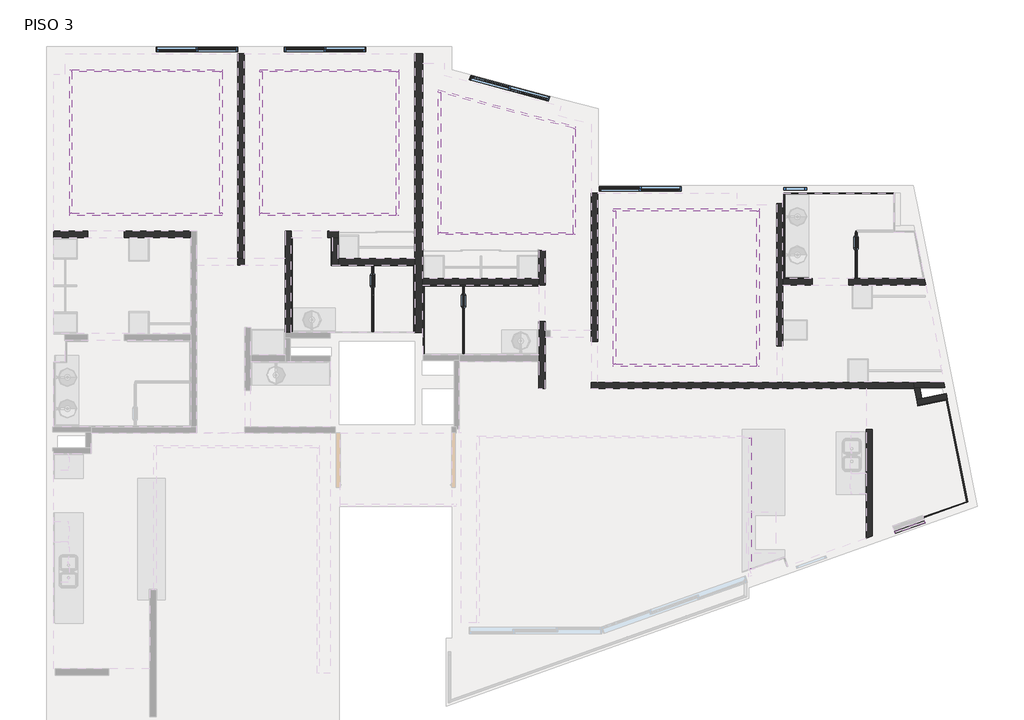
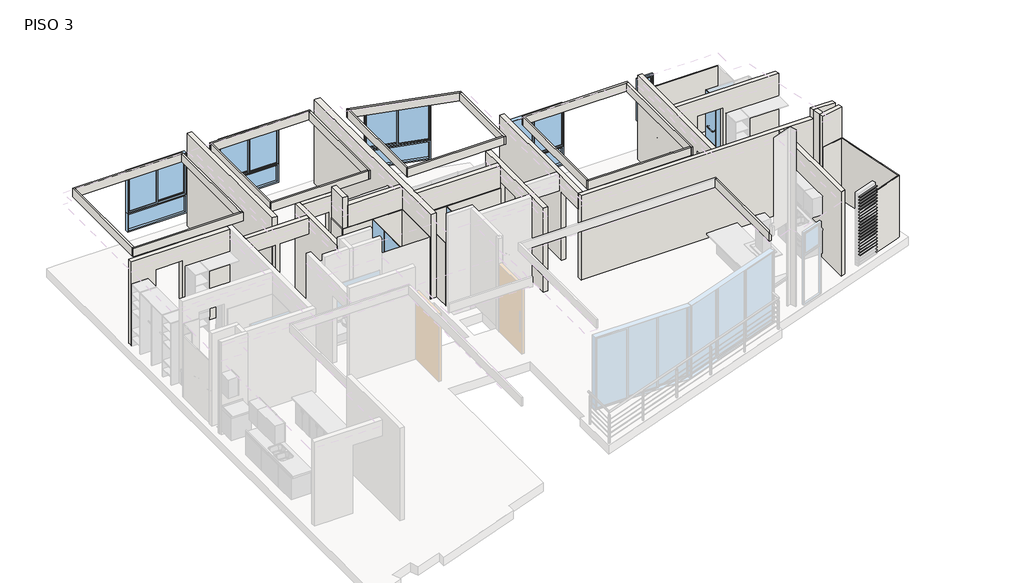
# One storey, part 2 of 3: 50 walls, 20 members, 8 windows.
"""IFC4 building model written with IfcOpenShell, lengths in millimetres."""

from ifc_helpers import new_model, si_unit, frame, origin, place, context, project, spatial, polyline, outline, extrude, faceted_brep, transform, mapped, element, save
from components import montante_rectangular_montante_rectangular_1_5x5_1b1c74e0, window_b75bd1a9, window_36b55308, window_504e83ce, window_db60b2a9, window_b7257eee, window_9818a119

model = new_model("IFC4")

# Units and contexts
model_context = context("Model", 3, world=origin())
ifc_project = project(units=[si_unit("LENGTHUNIT", "METRE", prefix="MILLI")], contexts=[model_context])

# Site, building, storey
site = spatial("IfcSite", under=ifc_project)
building = spatial("IfcBuilding", under=site)
storey = spatial("IfcBuildingStorey", under=building, Name="PISO 3", Elevation=9000.0)

# Members
placement = place(None, origin())
montante_rectangular_montante_rectangular_1_5x5_shape = montante_rectangular_montante_rectangular_1_5x5_1b1c74e0(model_context)
element("IfcMember", 1, ObjectType="Montante rectangular : Montante rectangular - 1.5x5", at=placement, inside=storey, context=model_context, shape_type="MappedRepresentation", body=[
    mapped(montante_rectangular_montante_rectangular_1_5x5_shape, transform((53319.7231991, 27770.5085935, 9386.6666667), x_axis=(0.0, 0.0, 1.0), y_axis=(0.3356769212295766, -0.9419771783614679, 0.0), z_axis=(0.9419771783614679, 0.3356769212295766, 0.0))),
])
element("IfcMember", 2, ObjectType="Montante rectangular : Montante rectangular - 1.5x5", at=placement, inside=storey, context=model_context, shape_type="MappedRepresentation", body=[
    mapped(montante_rectangular_montante_rectangular_1_5x5_shape, transform((53319.7231991, 27770.5085935, 9485.2083333), x_axis=(0.0, 0.0, 1.0), y_axis=(0.3356769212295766, -0.9419771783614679, 0.0), z_axis=(0.9419771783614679, 0.3356769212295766, 0.0))),
])
element("IfcMember", 3, ObjectType="Montante rectangular : Montante rectangular - 1.5x5", at=placement, inside=storey, context=model_context, shape_type="MappedRepresentation", body=[
    mapped(montante_rectangular_montante_rectangular_1_5x5_shape, transform((53319.7231991, 27770.5085935, 9583.75), x_axis=(0.0, 0.0, 1.0), y_axis=(0.3356769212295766, -0.9419771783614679, 0.0), z_axis=(0.9419771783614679, 0.3356769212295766, 0.0))),
])
element("IfcMember", 4, ObjectType="Montante rectangular : Montante rectangular - 1.5x5", at=placement, inside=storey, context=model_context, shape_type="MappedRepresentation", body=[
    mapped(montante_rectangular_montante_rectangular_1_5x5_shape, transform((53319.7231991, 27770.5085935, 9682.2916667), x_axis=(0.0, 0.0, 1.0), y_axis=(0.3356769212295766, -0.9419771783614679, 0.0), z_axis=(0.9419771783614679, 0.3356769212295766, 0.0))),
])
element("IfcMember", 5, ObjectType="Montante rectangular : Montante rectangular - 1.5x5", at=placement, inside=storey, context=model_context, shape_type="MappedRepresentation", body=[
    mapped(montante_rectangular_montante_rectangular_1_5x5_shape, transform((53319.7231991, 27770.5085935, 9780.8333333), x_axis=(0.0, 0.0, 1.0), y_axis=(0.3356769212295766, -0.9419771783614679, 0.0), z_axis=(0.9419771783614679, 0.3356769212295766, 0.0))),
])
element("IfcMember", 6, ObjectType="Montante rectangular : Montante rectangular - 1.5x5", at=placement, inside=storey, context=model_context, shape_type="MappedRepresentation", body=[
    mapped(montante_rectangular_montante_rectangular_1_5x5_shape, transform((53319.7231991, 27770.5085935, 9879.375), x_axis=(0.0, 0.0, 1.0), y_axis=(0.3356769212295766, -0.9419771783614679, 0.0), z_axis=(0.9419771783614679, 0.3356769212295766, 0.0))),
])
element("IfcMember", 7, ObjectType="Montante rectangular : Montante rectangular - 1.5x5", at=placement, inside=storey, context=model_context, shape_type="MappedRepresentation", body=[
    mapped(montante_rectangular_montante_rectangular_1_5x5_shape, transform((53319.7231991, 27770.5085935, 9977.9166667), x_axis=(0.0, 0.0, 1.0), y_axis=(0.3356769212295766, -0.9419771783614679, 0.0), z_axis=(0.9419771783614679, 0.3356769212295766, 0.0))),
])
element("IfcMember", 8, ObjectType="Montante rectangular : Montante rectangular - 1.5x5", at=placement, inside=storey, context=model_context, shape_type="MappedRepresentation", body=[
    mapped(montante_rectangular_montante_rectangular_1_5x5_shape, transform((53319.7231991, 27770.5085935, 10076.4583333), x_axis=(0.0, 0.0, 1.0), y_axis=(0.3356769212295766, -0.9419771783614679, 0.0), z_axis=(0.9419771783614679, 0.3356769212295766, 0.0))),
])
element("IfcMember", 9, ObjectType="Montante rectangular : Montante rectangular - 1.5x5", at=placement, inside=storey, context=model_context, shape_type="MappedRepresentation", body=[
    mapped(montante_rectangular_montante_rectangular_1_5x5_shape, transform((53319.7231991, 27770.5085935, 10175.0), x_axis=(0.0, 0.0, 1.0), y_axis=(0.3356769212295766, -0.9419771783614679, 0.0), z_axis=(0.9419771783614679, 0.3356769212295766, 0.0))),
])
element("IfcMember", 10, ObjectType="Montante rectangular : Montante rectangular - 1.5x5", at=placement, inside=storey, context=model_context, shape_type="MappedRepresentation", body=[
    mapped(montante_rectangular_montante_rectangular_1_5x5_shape, transform((53319.7231991, 27770.5085935, 10273.5416667), x_axis=(0.0, 0.0, 1.0), y_axis=(0.3356769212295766, -0.9419771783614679, 0.0), z_axis=(0.9419771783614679, 0.3356769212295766, 0.0))),
])
element("IfcMember", 11, ObjectType="Montante rectangular : Montante rectangular - 1.5x5", at=placement, inside=storey, context=model_context, shape_type="MappedRepresentation", body=[
    mapped(montante_rectangular_montante_rectangular_1_5x5_shape, transform((53319.7231991, 27770.5085935, 10372.0833333), x_axis=(0.0, 0.0, 1.0), y_axis=(0.3356769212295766, -0.9419771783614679, 0.0), z_axis=(0.9419771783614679, 0.3356769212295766, 0.0))),
])
element("IfcMember", 12, ObjectType="Montante rectangular : Montante rectangular - 1.5x5", at=placement, inside=storey, context=model_context, shape_type="MappedRepresentation", body=[
    mapped(montante_rectangular_montante_rectangular_1_5x5_shape, transform((53319.7231991, 27770.5085935, 10470.625), x_axis=(0.0, 0.0, 1.0), y_axis=(0.3356769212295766, -0.9419771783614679, 0.0), z_axis=(0.9419771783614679, 0.3356769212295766, 0.0))),
])
element("IfcMember", 13, ObjectType="Montante rectangular : Montante rectangular - 1.5x5", at=placement, inside=storey, context=model_context, shape_type="MappedRepresentation", body=[
    mapped(montante_rectangular_montante_rectangular_1_5x5_shape, transform((53319.7231991, 27770.5085935, 10569.1666667), x_axis=(0.0, 0.0, 1.0), y_axis=(0.3356769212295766, -0.9419771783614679, 0.0), z_axis=(0.9419771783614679, 0.3356769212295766, 0.0))),
])
element("IfcMember", 14, ObjectType="Montante rectangular : Montante rectangular - 1.5x5", at=placement, inside=storey, context=model_context, shape_type="MappedRepresentation", body=[
    mapped(montante_rectangular_montante_rectangular_1_5x5_shape, transform((53319.7231991, 27770.5085935, 10667.7083333), x_axis=(0.0, 0.0, 1.0), y_axis=(0.3356769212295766, -0.9419771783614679, 0.0), z_axis=(0.9419771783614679, 0.3356769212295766, 0.0))),
])
element("IfcMember", 15, ObjectType="Montante rectangular : Montante rectangular - 1.5x5", at=placement, inside=storey, context=model_context, shape_type="MappedRepresentation", body=[
    mapped(montante_rectangular_montante_rectangular_1_5x5_shape, transform((53319.7231991, 27770.5085935, 10766.25), x_axis=(0.0, 0.0, 1.0), y_axis=(0.3356769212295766, -0.9419771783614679, 0.0), z_axis=(0.9419771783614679, 0.3356769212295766, 0.0))),
])
element("IfcMember", 16, ObjectType="Montante rectangular : Montante rectangular - 1.5x5", at=placement, inside=storey, context=model_context, shape_type="MappedRepresentation", body=[
    mapped(montante_rectangular_montante_rectangular_1_5x5_shape, transform((53319.7231991, 27770.5085935, 10864.7916667), x_axis=(0.0, 0.0, 1.0), y_axis=(0.3356769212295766, -0.9419771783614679, 0.0), z_axis=(0.9419771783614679, 0.3356769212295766, 0.0))),
])
element("IfcMember", 17, ObjectType="Montante rectangular : Montante rectangular - 1.5x5", at=placement, inside=storey, context=model_context, shape_type="MappedRepresentation", body=[
    mapped(montante_rectangular_montante_rectangular_1_5x5_shape, transform((53319.7231991, 27770.5085935, 10963.3333333), x_axis=(0.0, 0.0, 1.0), y_axis=(0.3356769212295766, -0.9419771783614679, 0.0), z_axis=(0.9419771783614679, 0.3356769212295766, 0.0))),
])
element("IfcMember", 18, ObjectType="Montante rectangular : Montante rectangular - 1.5x5", at=placement, inside=storey, context=model_context, shape_type="MappedRepresentation", body=[
    mapped(montante_rectangular_montante_rectangular_1_5x5_shape, transform((53319.7231991, 27770.5085935, 11061.875), x_axis=(0.0, 0.0, 1.0), y_axis=(0.3356769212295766, -0.9419771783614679, 0.0), z_axis=(0.9419771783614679, 0.3356769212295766, 0.0))),
])
element("IfcMember", 19, ObjectType="Montante rectangular : Montante rectangular - 1.5x5", at=placement, inside=storey, context=model_context, shape_type="MappedRepresentation", body=[
    mapped(montante_rectangular_montante_rectangular_1_5x5_shape, transform((53319.7231991, 27770.5085935, 11160.4166667), x_axis=(0.0, 0.0, 1.0), y_axis=(0.3356769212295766, -0.9419771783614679, 0.0), z_axis=(0.9419771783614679, 0.3356769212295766, 0.0))),
])
element("IfcMember", 20, ObjectType="Montante rectangular : Montante rectangular - 1.5x5", at=placement, inside=storey, context=model_context, shape_type="MappedRepresentation", body=[
    mapped(montante_rectangular_montante_rectangular_1_5x5_shape, transform((53319.7231991, 27770.5085935, 11258.9583333), x_axis=(0.0, 0.0, 1.0), y_axis=(0.3356769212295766, -0.9419771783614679, 0.0), z_axis=(0.9419771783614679, 0.3356769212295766, 0.0))),
])

# Walls
element("IfcWall", 21, ObjectType="Muro block 12cms_int_ductos", at=placement, inside=storey, context=model_context, shape_type="Brep", body=[
    faceted_brep([(53085.5419689, 30724.0100923, 9000.0), (53207.9252394, 30724.0100923, 9000.0), (53760.5143431, 30724.0100923, 9000.0), (53760.5143431, 30724.0100923, 12000.0), (53207.9252394, 30724.0100923, 12000.0), (53085.5419689, 30724.0100923, 12000.0), (53061.5073088, 30844.0100923, 9000.0), (53061.5073088, 30844.0100923, 12000.0), (53736.479683, 30844.0100923, 12000.0), (53736.479683, 30844.0100923, 9000.0)], [[[0, 1, 2, 3, 4, 5]], [[6, 7, 8, 9]], [[2, 1, 0, 6, 9]], [[5, 4, 3, 8, 7]], [[0, 5, 7, 6]], [[3, 2, 9, 8]]]),
])
element("IfcWall", 22, ObjectType="Muro block 12cms_int_ductos", at=placement, inside=storey, context=model_context, shape_type="Brep", body=[
    faceted_brep([(53161.6752689, 30343.8925477, 12000.0), (53810.6150242, 30473.8679349, 12000.0), (53787.0484109, 30591.5310758, 12000.0), (53255.7717965, 30485.122302, 12000.0), (53138.1086555, 30461.5556886, 12000.0), (53161.6752689, 30343.8925477, 9000.0), (53810.6150242, 30473.8679349, 9000.0), (53138.1086555, 30461.5556886, 9000.0), (53787.0484109, 30591.5310758, 9000.0), (53255.7717965, 30485.122302, 9000.0)], [[[0, 1, 2, 3, 4]], [[5, 6, 1, 0]], [[7, 4, 3, 2, 8, 9]], [[6, 5, 7, 9, 8]], [[5, 0, 4, 7]], [[1, 6, 8, 2]]]),
])
element("IfcWall", 23, ObjectType="Muro block 12cms_int_ductos", at=placement, inside=storey, context=model_context, shape_type="Brep", body=[
    faceted_brep([(53255.7717965, 30485.122302, 12000.0), (53207.9252394, 30724.0100923, 12000.0), (53085.5419689, 30724.0100923, 12000.0), (53089.5477456, 30704.0100923, 12000.0), (53138.1086555, 30461.5556886, 12000.0), (53255.7717965, 30485.122302, 9000.0), (53207.9252394, 30724.0100923, 9000.0), (53138.1086555, 30461.5556886, 9000.0), (53085.5419689, 30724.0100923, 9000.0), (53089.5477456, 30704.0100923, 9000.0)], [[[0, 1, 2, 3, 4]], [[5, 6, 1, 0]], [[7, 4, 3, 2, 8, 9]], [[6, 5, 7, 9, 8]], [[5, 0, 4, 7]], [[1, 6, 8, 2]]]),
])
element("IfcWall", 24, ObjectType="Plafond tablaroca", at=placement, inside=storey, context=model_context, shape_type="Brep", body=[
    faceted_brep([(34491.1589874, 34568.9785701, 11720.0), (34543.8589874, 34568.9785701, 11720.0), (37794.5300226, 34568.9785701, 11720.0), (37847.2300226, 34568.9785701, 11720.0), (37847.2300226, 34568.9785701, 11452.7), (37794.5300226, 34568.9785701, 11452.7), (34543.8589874, 34568.9785701, 11452.7), (34491.1589874, 34568.9785701, 11452.7), (37847.2300226, 34516.2785701, 11720.0), (34491.1589874, 34516.2785701, 11720.0), (34491.1589874, 34516.2785701, 11452.7), (37847.2300226, 34516.2785701, 11452.7)], [[[0, 1, 2, 3, 4, 5, 6, 7]], [[8, 9, 10, 11]], [[9, 0, 7, 10]], [[7, 6, 5, 4, 11, 10]], [[3, 2, 1, 0, 9, 8]], [[3, 8, 11, 4]]]),
])
element("IfcWall", 25, ObjectType="Plafond tablaroca", at=placement, inside=storey, context=model_context, shape_type="Brep", body=[
    faceted_brep([(34543.8589874, 37733.1026232, 11720.0), (34543.8589874, 37680.4026232, 11720.0), (34543.8589874, 34568.9785701, 11720.0), (34543.8589874, 34568.9785701, 11452.7), (34543.8589874, 37680.4026232, 11452.7), (34543.8589874, 37733.1026232, 11452.7), (34491.1589874, 34568.9785701, 11720.0), (34491.1589874, 37733.1026232, 11720.0), (34491.1589874, 37733.1026232, 11452.7), (34491.1589874, 34568.9785701, 11452.7)], [[[0, 1, 2, 3, 4, 5]], [[6, 7, 8, 9]], [[2, 1, 0, 7, 6]], [[2, 6, 9, 3]], [[5, 4, 3, 9, 8]], [[7, 0, 5, 8]]]),
])
element("IfcWall", 26, ObjectType="Plafond tablaroca", at=placement, inside=storey, context=model_context, shape_type="Brep", body=[
    faceted_brep([(37847.2300226, 37680.4026232, 11720.0), (37794.5300226, 37680.4026232, 11720.0), (34543.8589874, 37680.4026232, 11720.0), (34543.8589874, 37680.4026232, 11452.7), (37794.5300226, 37680.4026232, 11452.7), (37847.2300226, 37680.4026232, 11452.7), (34543.8589874, 37733.1026232, 11720.0), (37847.2300226, 37733.1026232, 11720.0), (37847.2300226, 37733.1026232, 11452.7), (34543.8589874, 37733.1026232, 11452.7)], [[[0, 1, 2, 3, 4, 5]], [[6, 7, 8, 9]], [[2, 1, 0, 7, 6]], [[2, 6, 9, 3]], [[7, 0, 5, 8]], [[5, 4, 3, 9, 8]]]),
])
element("IfcWall", 27, ObjectType="Plafond tablaroca", at=placement, inside=storey, context=model_context, shape_type="SweptSolid", body=[
    extrude(outline(polyline([(37794.5300226, 34568.9785701), (37794.5300226, 37680.4026232), (37847.2300226, 37680.4026232), (37847.2300226, 34568.9785701), (37794.5300226, 34568.9785701)])), frame((0.0, 0.0, 11452.7), z_axis=(0.0, 0.0, 1.0), x_axis=(1.0, 0.0, 0.0)), (0.0, 0.0, 1.0), 267.3),
])
element("IfcWall", 28, ObjectType="Plafond tablaroca", at=placement, inside=storey, context=model_context, shape_type="Brep", body=[
    faceted_brep([(41737.2059119, 37680.4026232, 11720.0), (41684.5059119, 37680.4026232, 11720.0), (38734.5300226, 37680.4026232, 11720.0), (38681.8300226, 37680.4026232, 11720.0), (38681.8300226, 37680.4026232, 11452.7), (38734.5300226, 37680.4026232, 11452.7), (41684.5059119, 37680.4026232, 11452.7), (41737.2059119, 37680.4026232, 11452.7), (38681.8300226, 37733.1026232, 11720.0), (41737.2059119, 37733.1026232, 11720.0), (41737.2059119, 37733.1026232, 11452.7), (38681.8300226, 37733.1026232, 11452.7)], [[[0, 1, 2, 3, 4, 5, 6, 7]], [[8, 9, 10, 11]], [[3, 2, 1, 0, 9, 8]], [[9, 0, 7, 10]], [[3, 8, 11, 4]], [[7, 6, 5, 4, 11, 10]]]),
])
element("IfcWall", 29, ObjectType="Plafond tablaroca", at=placement, inside=storey, context=model_context, shape_type="Brep", body=[
    faceted_brep([(41684.5059119, 34516.2785701, 11720.0), (41684.5059119, 34568.9785701, 11720.0), (41684.5059119, 37680.4026232, 11720.0), (41684.5059119, 37680.4026232, 11452.7), (41684.5059119, 34568.9785701, 11452.7), (41684.5059119, 34516.2785701, 11452.7), (41737.2059119, 37680.4026232, 11720.0), (41737.2059119, 34516.2785701, 11720.0), (41737.2059119, 34516.2785701, 11452.7), (41737.2059119, 37680.4026232, 11452.7)], [[[0, 1, 2, 3, 4, 5]], [[6, 7, 8, 9]], [[2, 1, 0, 7, 6]], [[2, 6, 9, 3]], [[7, 0, 5, 8]], [[5, 4, 3, 9, 8]]]),
])
element("IfcWall", 30, ObjectType="Plafond tablaroca", at=placement, inside=storey, context=model_context, shape_type="Brep", body=[
    faceted_brep([(38681.8300226, 34568.9785701, 11720.0), (38734.5300226, 34568.9785701, 11720.0), (41684.5059119, 34568.9785701, 11720.0), (41684.5059119, 34568.9785701, 11452.7), (38734.5300226, 34568.9785701, 11452.7), (38681.8300226, 34568.9785701, 11452.7), (41684.5059119, 34516.2785701, 11720.0), (38681.8300226, 34516.2785701, 11720.0), (38681.8300226, 34516.2785701, 11452.7), (41684.5059119, 34516.2785701, 11452.7)], [[[0, 1, 2, 3, 4, 5]], [[6, 7, 8, 9]], [[2, 1, 0, 7, 6]], [[2, 6, 9, 3]], [[7, 0, 5, 8]], [[5, 4, 3, 9, 8]]]),
])
element("IfcWall", 31, ObjectType="Plafond tablaroca", at=placement, inside=storey, context=model_context, shape_type="SweptSolid", body=[
    extrude(outline(polyline([(38734.5300226, 37680.4026232), (38734.5300226, 34568.9785701), (38681.8300226, 34568.9785701), (38681.8300226, 37680.4026232), (38734.5300226, 37680.4026232)])), frame((0.0, 0.0, 11452.7), z_axis=(0.0, 0.0, 1.0), x_axis=(1.0, 0.0, 0.0)), (0.0, 0.0, 1.0), 267.3),
])
element("IfcWall", 32, ObjectType="Plafond tablaroca", at=placement, inside=storey, context=model_context, shape_type="Brep", body=[
    faceted_brep([(45627.2059119, 36422.7090546, 11720.0), (45574.5059119, 36436.8800645, 11720.0), (42664.5059119, 37219.3779563, 11720.0), (42611.8059119, 37233.5489662, 11720.0), (42611.8059119, 37233.5489662, 11452.7), (42664.5059119, 37219.3779563, 11452.7), (45574.5059119, 36436.8800645, 11452.7), (45627.2059119, 36422.7090546, 11452.7), (42611.8059119, 37288.121006, 11720.0), (45627.2059119, 36477.2810943, 11720.0), (45627.2059119, 36477.2810943, 11452.7), (42611.8059119, 37288.121006, 11452.7)], [[[0, 1, 2, 3, 4, 5, 6, 7]], [[8, 9, 10, 11]], [[3, 2, 1, 0, 9, 8]], [[9, 0, 7, 10]], [[3, 8, 11, 4]], [[7, 6, 5, 4, 11, 10]]]),
])
element("IfcWall", 33, ObjectType="Plafond tablaroca", at=placement, inside=storey, context=model_context, shape_type="Brep", body=[
    faceted_brep([(45574.5059119, 34091.3113905, 11720.0), (45574.5059119, 34144.0113905, 11720.0), (45574.5059119, 36436.8800645, 11720.0), (45574.5059119, 36436.8800645, 11452.7), (45574.5059119, 34144.0113905, 11452.7), (45574.5059119, 34091.3113905, 11452.7), (45627.2059119, 36422.7090546, 11720.0), (45627.2059119, 34091.3113905, 11720.0), (45627.2059119, 34091.3113905, 11452.7), (45627.2059119, 36422.7090546, 11452.7)], [[[0, 1, 2, 3, 4, 5]], [[6, 7, 8, 9]], [[2, 1, 0, 7, 6]], [[2, 6, 9, 3]], [[7, 0, 5, 8]], [[5, 4, 3, 9, 8]]]),
])
element("IfcWall", 34, ObjectType="Plafond tablaroca", at=placement, inside=storey, context=model_context, shape_type="Brep", body=[
    faceted_brep([(42611.8059119, 34144.0113905, 11720.0), (42664.5059119, 34144.0113905, 11720.0), (45574.5059119, 34144.0113905, 11720.0), (45574.5059119, 34144.0113905, 11452.7), (42664.5059119, 34144.0113905, 11452.7), (42611.8059119, 34144.0113905, 11452.7), (45574.5059119, 34091.3113905, 11720.0), (42611.8059119, 34091.3113905, 11720.0), (42611.8059119, 34091.3113905, 11452.7), (45574.5059119, 34091.3113905, 11452.7)], [[[0, 1, 2, 3, 4, 5]], [[6, 7, 8, 9]], [[2, 1, 0, 7, 6]], [[2, 6, 9, 3]], [[7, 0, 5, 8]], [[5, 4, 3, 9, 8]]]),
])
element("IfcWall", 35, ObjectType="Plafond tablaroca", at=placement, inside=storey, context=model_context, shape_type="SweptSolid", body=[
    extrude(outline(polyline([(42664.5059119, 37219.3779563), (42664.5059119, 34144.0113905), (42611.8059119, 34144.0113905), (42611.8059119, 37233.5489662), (42664.5059119, 37219.3779563)])), frame((0.0, 0.0, 11452.7), z_axis=(0.0, 0.0, 1.0), x_axis=(1.0, 0.0, 0.0)), (0.0, 0.0, 1.0), 267.3),
])
element("IfcWall", 36, ObjectType="Plafond tablaroca", at=placement, inside=storey, context=model_context, shape_type="Brep", body=[
    faceted_brep([(49674.4822189, 34614.0104642, 11720.0), (49621.7822189, 34614.0104642, 11720.0), (46514.5059119, 34614.0104642, 11720.0), (46461.8059119, 34614.0104642, 11720.0), (46461.8059119, 34614.0104642, 11452.7), (46514.5059119, 34614.0104642, 11452.7), (49621.7822189, 34614.0104642, 11452.7), (49674.4822189, 34614.0104642, 11452.7), (46461.8059119, 34666.7104642, 11720.0), (49674.4822189, 34666.7104642, 11720.0), (49674.4822189, 34666.7104642, 11452.7), (46461.8059119, 34666.7104642, 11452.7)], [[[0, 1, 2, 3, 4, 5, 6, 7]], [[8, 9, 10, 11]], [[3, 2, 1, 0, 9, 8]], [[9, 0, 7, 10]], [[3, 8, 11, 4]], [[7, 6, 5, 4, 11, 10]]]),
])
element("IfcWall", 37, ObjectType="Plafond tablaroca", at=placement, inside=storey, context=model_context, shape_type="Brep", body=[
    faceted_brep([(49621.7822189, 31191.3100923, 11720.0), (49621.7822189, 31244.0100923, 11720.0), (49621.7822189, 34614.0104642, 11720.0), (49621.7822189, 34614.0104642, 11452.7), (49621.7822189, 31244.0100923, 11452.7), (49621.7822189, 31191.3100923, 11452.7), (49674.4822189, 34614.0104642, 11720.0), (49674.4822189, 31191.3100923, 11720.0), (49674.4822189, 31191.3100923, 11452.7), (49674.4822189, 34614.0104642, 11452.7)], [[[0, 1, 2, 3, 4, 5]], [[6, 7, 8, 9]], [[2, 1, 0, 7, 6]], [[2, 6, 9, 3]], [[7, 0, 5, 8]], [[5, 4, 3, 9, 8]]]),
])
element("IfcWall", 38, ObjectType="Plafond tablaroca", at=placement, inside=storey, context=model_context, shape_type="Brep", body=[
    faceted_brep([(46461.8059119, 31244.0100923, 11720.0), (46514.5059119, 31244.0100923, 11720.0), (49621.7822189, 31244.0100923, 11720.0), (49621.7822189, 31244.0100923, 11452.7), (46514.5059119, 31244.0100923, 11452.7), (46461.8059119, 31244.0100923, 11452.7), (49621.7822189, 31191.3100923, 11720.0), (46461.8059119, 31191.3100923, 11720.0), (46461.8059119, 31191.3100923, 11452.7), (49621.7822189, 31191.3100923, 11452.7)], [[[0, 1, 2, 3, 4, 5]], [[6, 7, 8, 9]], [[2, 1, 0, 7, 6]], [[2, 6, 9, 3]], [[7, 0, 5, 8]], [[5, 4, 3, 9, 8]]]),
])
element("IfcWall", 39, ObjectType="Plafond tablaroca", at=placement, inside=storey, context=model_context, shape_type="SweptSolid", body=[
    extrude(outline(polyline([(46514.5059119, 34614.0104642), (46514.5059119, 31244.0100923), (46461.8059119, 31244.0100923), (46461.8059119, 34614.0104642), (46514.5059119, 34614.0104642)])), frame((0.0, 0.0, 11452.7), z_axis=(0.0, 0.0, 1.0), x_axis=(1.0, 0.0, 0.0)), (0.0, 0.0, 1.0), 267.3),
])
element("IfcWall", 40, ObjectType="Plafond tablaroca", at=placement, inside=storey, context=model_context, shape_type="SweptSolid", body=[
    extrude(outline(polyline([(49444.5059119, 26734.010184), (49444.5059119, 29611.2733508), (49497.2059119, 29611.2733508), (49497.2059119, 26734.010184), (49444.5059119, 26734.010184)])), frame((0.0, 0.0, 11452.7), z_axis=(0.0, 0.0, 1.0), x_axis=(1.0, 0.0, 0.0)), (0.0, 0.0, 1.0), 267.3),
])
element("IfcWall", 41, ObjectType="Cerámica baño", at=placement, inside=storey, context=model_context, shape_type="Brep", body=[
    faceted_brep([(40249.5059119, 33408.9784839, 9000.0), (42064.5059119, 33408.9784839, 9000.0), (42084.5059119, 33408.9784839, 9000.0), (42084.5059119, 33408.9784839, 11000.0), (42064.5059119, 33408.9784839, 11000.0), (40249.5059119, 33408.9784839, 11000.0), (40249.5059119, 33428.9784839, 9000.0), (40249.5059119, 33428.9784839, 11000.0), (40269.5059119, 33428.9784839, 11000.0), (42084.5059119, 33428.9784839, 11000.0), (42084.5059119, 33428.9784839, 9000.0), (40269.5059119, 33428.9784839, 9000.0)], [[[0, 1, 2, 3, 4, 5]], [[6, 7, 8, 9, 10, 11]], [[2, 1, 0, 6, 11, 10]], [[5, 4, 3, 9, 8, 7]], [[3, 2, 10, 9]], [[0, 5, 7, 6]]]),
])
element("IfcWall", 42, ObjectType="Cerámica baño", at=placement, inside=storey, context=model_context, shape_type="Brep", body=[
    faceted_brep([(42064.5059119, 33408.9784839, 9000.0), (42064.5059119, 31953.9733508, 9000.0), (42064.5059119, 31933.9733508, 9000.0), (42064.5059119, 31933.9733508, 11000.0), (42064.5059119, 31953.9733508, 11000.0), (42064.5059119, 33408.9784839, 11000.0), (42084.5059119, 33408.9784839, 9000.0), (42084.5059119, 33408.9784839, 11000.0), (42084.5059119, 31933.9733508, 11000.0), (42084.5059119, 31933.9733508, 9000.0)], [[[0, 1, 2, 3, 4, 5]], [[6, 7, 8, 9]], [[2, 1, 0, 6, 9]], [[5, 4, 3, 8, 7]], [[3, 2, 9, 8]], [[0, 5, 7, 6]]]),
])
element("IfcWall", 43, ObjectType="Cerámica baño", at=placement, inside=storey, context=model_context, shape_type="Brep", body=[
    faceted_brep([(50769.4822189, 33144.0113812, 9000.0), (50234.4822189, 33144.0113812, 9000.0), (50214.4822189, 33144.0113812, 9000.0), (50214.4822189, 33144.0113812, 11000.0), (50234.4822189, 33144.0113812, 11000.0), (50769.4822189, 33144.0113812, 11000.0), (50769.4822189, 33124.0113812, 9000.0), (50769.4822189, 33124.0113812, 11000.0), (50214.4822189, 33124.0113812, 11000.0), (50214.4822189, 33124.0113812, 9000.0)], [[[0, 1, 2, 3, 4, 5]], [[6, 7, 8, 9]], [[2, 1, 0, 6, 9]], [[5, 4, 3, 8, 7]], [[0, 5, 7, 6]], [[3, 2, 9, 8]]]),
])
element("IfcWall", 44, ObjectType="Cerámica baño", at=placement, inside=storey, context=model_context, shape_type="Brep", body=[
    faceted_brep([(50234.4822189, 33144.0113812, 9000.0), (50234.4822189, 34994.0104642, 9000.0), (50234.4822189, 35014.0104642, 9000.0), (50234.4822189, 35014.0104642, 11000.0), (50234.4822189, 34994.0104642, 11000.0), (50234.4822189, 33144.0113812, 11000.0), (50214.4822189, 33144.0113812, 9000.0), (50214.4822189, 33144.0113812, 11000.0), (50214.4822189, 35014.0104642, 11000.0), (50214.4822189, 35014.0104642, 9000.0)], [[[0, 1, 2, 3, 4, 5]], [[6, 7, 8, 9]], [[2, 1, 0, 6, 9]], [[5, 4, 3, 8, 7]], [[0, 5, 7, 6]], [[3, 2, 9, 8]]]),
])
element("IfcWall", 45, ObjectType="Cerámica baño", at=placement, inside=storey, context=model_context, shape_type="Brep", body=[
    faceted_brep([(42299.5059119, 31464.0104754, 9000.0), (42299.5059119, 32963.9839575, 9000.0), (42299.5059119, 32983.9839575, 9000.0), (42299.5059119, 32983.9839575, 11000.0), (42299.5059119, 32963.9839575, 11000.0), (42299.5059119, 31464.0104754, 11000.0), (42279.5059119, 31464.0104754, 9000.0), (42279.5059119, 31464.0104754, 11000.0), (42279.5059119, 32983.9839575, 11000.0), (42279.5059119, 32983.9839575, 9000.0)], [[[0, 1, 2, 3, 4, 5]], [[6, 7, 8, 9]], [[2, 1, 0, 6, 9]], [[5, 4, 3, 8, 7]], [[3, 2, 9, 8]], [[0, 5, 7, 6]]]),
])
element("IfcWall", 46, ObjectType="Cerámica baño", at=placement, inside=storey, context=model_context, shape_type="SweptSolid", body=[
    extrude(outline(polyline([(44824.5251366, 32963.9839575), (42299.5059119, 32963.9839575), (42299.5059119, 32983.9839575), (44824.5251366, 32983.9839575), (44824.5251366, 32963.9839575)])), frame((0.0, 0.0, 9000.0), z_axis=(0.0, 0.0, 1.0), x_axis=(1.0, 0.0, 0.0)), (0.0, 0.0, 1.0), 2000.0),
])
element("IfcWall", 47, ObjectType="Cerámica baño", at=placement, inside=storey, context=model_context, shape_type="SweptSolid", body=[
    extrude(outline(polyline([(39394.5300226, 34028.9785701), (39394.5300226, 31953.9733508), (39374.5300226, 31953.9733508), (39374.5300226, 34028.9785701), (39394.5300226, 34028.9785701)])), frame((0.0, 0.0, 9000.0), z_axis=(0.0, 0.0, 1.0), x_axis=(1.0, 0.0, 0.0)), (0.0, 0.0, 1.0), 2000.0),
])
element("IfcWall", 48, ObjectType="Cerámica baño", at=placement, inside=storey, context=model_context, shape_type="SweptSolid", body=[
    extrude(outline(polyline([(40269.5059119, 34028.9785701), (40269.5059119, 33428.9784839), (40249.5059119, 33428.9784839), (40249.5059119, 34028.9785701), (40269.5059119, 34028.9785701)])), frame((0.0, 0.0, 9000.0), z_axis=(0.0, 0.0, 1.0), x_axis=(1.0, 0.0, 0.0)), (0.0, 0.0, 1.0), 2000.0),
])
element("IfcWall", 49, ObjectType="Cerámica baño", at=placement, inside=storey, context=model_context, shape_type="SweptSolid", body=[
    extrude(outline(polyline([(50234.4822189, 35014.0104642), (52636.6303003, 35014.0104642), (52636.6303003, 34994.0104642), (50234.4822189, 34994.0104642), (50234.4822189, 35014.0104642)])), frame((0.0, 0.0, 9000.0), z_axis=(0.0, 0.0, 1.0), x_axis=(1.0, 0.0, 0.0)), (0.0, 0.0, 1.0), 2000.0),
])
element("IfcWall", 50, ObjectType="Cerámica baño", at=placement, inside=storey, context=model_context, shape_type="Brep", body=[
    faceted_brep([(53165.6030378, 30324.2820242, 9000.0), (53794.9322696, 30450.3296425, 9000.0), (53814.5427931, 30454.2574114, 9000.0), (53814.5427931, 30454.2574114, 11000.0), (53794.9322696, 30450.3296425, 11000.0), (53165.6030378, 30324.2820242, 11000.0), (53161.6752689, 30343.8925477, 9000.0), (53161.6752689, 30343.8925477, 11000.0), (53810.6150242, 30473.8679349, 11000.0), (53810.6150242, 30473.8679349, 9000.0)], [[[0, 1, 2, 3, 4, 5]], [[6, 7, 8, 9]], [[2, 1, 0, 6, 9]], [[5, 4, 3, 8, 7]], [[0, 5, 7, 6]], [[3, 2, 9, 8]]]),
])
element("IfcWall", 51, ObjectType="Cerámica baño", at=placement, inside=storey, context=model_context, shape_type="SweptSolid", body=[
    extrude(outline(polyline([(54246.3942771, 28196.2748474), (53794.9322696, 30450.3296425), (53814.5427931, 30454.2574114), (54265.4326509, 28203.0592396), (54246.3942771, 28196.2748474)])), frame((0.0, 0.0, 9000.0), z_axis=(0.0, 0.0, 1.0), x_axis=(1.0, 0.0, 0.0)), (0.0, 0.0, 1.0), 2000.0),
])
element("IfcWall", 52, ObjectType="Cerámica baño", at=placement, inside=storey, context=model_context, shape_type="SweptSolid", body=[
    extrude(outline(polyline([(54265.4326509, 28203.0592396), (53289.5122761, 27855.2865395), (53282.7987377, 27874.1260831), (54261.4634288, 28222.8767301), (54265.4326509, 28203.0592396)])), frame((0.0, 0.0, 9000.0), z_axis=(0.0, 0.0, 1.0), x_axis=(1.0, 0.0, 0.0)), (0.0, 0.0, 1.0), 2000.0),
])
element("IfcWall", 53, ObjectType="Muro block 14cms_int", at=placement, inside=storey, context=model_context, shape_type="SweptSolid", body=[
    extrude(outline(polyline([(9000.0, 34143.8589874), (9000.0, 34894.5300226), (11200.0, 34894.5300226), (11200.0, 35694.5300226), (9000.0, 35694.5300226), (9000.0, 37154.5300226), (11720.0, 37154.5300226), (11720.0, 34143.8589874), (9000.0, 34143.8589874)])), frame((0.0, 34028.9785701, 0.0), z_axis=(0.0, 1.0, 0.0), x_axis=(0.0, 0.0, 1.0)), (0.0, 0.0, 1.0), 140.0),
])
element("IfcWall", 54, ObjectType="Muro block 14cms_int", at=placement, inside=storey, context=model_context, shape_type="Brep", body=[
    faceted_brep([(38334.5300226, 33568.9784839, 9000.0), (38334.5300226, 38080.4026232, 9000.0), (38334.5300226, 38080.4026232, 12000.0), (38334.5300226, 33568.9784839, 12000.0), (38334.5300226, 33568.9784839, 11200.0), (38194.5300226, 33568.9784839, 9000.0), (38194.5300226, 33568.9784839, 11200.0), (38194.5300226, 33568.9784839, 12000.0), (38194.5300226, 38080.4026232, 12000.0), (38194.5300226, 38080.4026232, 11350.0), (38194.5300226, 38080.4026232, 9400.0), (38194.5300226, 38080.4026232, 9000.0)], [[[0, 1, 2, 3, 4]], [[5, 6, 7, 8, 9, 10, 11]], [[1, 0, 5, 11]], [[3, 2, 8, 7]], [[0, 4, 3, 7, 6, 5]], [[2, 1, 11, 10, 9, 8]]]),
])
element("IfcWall", 55, ObjectType="Muro block 14cms_int", at=placement, inside=storey, context=model_context, shape_type="SweptSolid", body=[
    extrude(outline(polyline([(11200.0, 38194.5300226), (9000.0, 38194.5300226), (9000.0, 38334.5300226), (11200.0, 38334.5300226), (11200.0, 39234.5300226), (11720.0, 39234.5300226), (11720.0, 37294.5300226), (11200.0, 37294.5300226), (11200.0, 38194.5300226)])), frame((0.0, 33428.9784839, 0.0), z_axis=(0.0, 1.0, 0.0), x_axis=(0.0, 0.0, 1.0)), (0.0, 0.0, 1.0), 140.0),
])
element("IfcWall", 56, ObjectType="Muro block 14cms_int", at=placement, inside=storey, context=model_context, shape_type="Brep", body=[
    faceted_brep([(42264.5059119, 32984.0113856, 9000.0), (44824.5251366, 32984.0113856, 9000.0), (44824.5251366, 32984.0113856, 11200.0), (44824.5251366, 32984.0113856, 11720.0), (42264.5059119, 32984.0113856, 11720.0), (44824.5251366, 33124.0113856, 9000.0), (42264.5059119, 33124.0113856, 9000.0), (42264.5059119, 33124.0113856, 11720.0), (44824.5251366, 33124.0113856, 11720.0)], [[[0, 1, 2, 3, 4]], [[5, 6, 7, 8]], [[1, 0, 6, 5]], [[1, 5, 8, 3, 2]], [[6, 0, 4, 7]], [[4, 3, 8, 7]]]),
])
element("IfcWall", 57, ObjectType="Muro block 14cms_int", at=placement, inside=storey, context=model_context, shape_type="Brep", body=[
    faceted_brep([(44964.5251366, 32984.0113856, 11200.0), (44964.5251366, 32984.0113856, 9000.0), (44964.5251366, 33744.0113905, 9000.0), (44964.5251366, 33744.0113905, 11720.0), (44964.5251366, 30704.0100923, 11720.0), (44964.5251366, 30704.0100923, 9000.0), (44964.5251366, 31844.0100923, 9000.0), (44964.5251366, 31984.0100923, 9000.0), (44964.5251366, 32184.0113856, 9000.0), (44964.5251366, 32184.0113856, 11200.0), (44824.5251366, 32984.0113856, 9000.0), (44824.5251366, 32984.0113856, 11200.0), (44824.5251366, 32184.0113856, 11200.0), (44824.5251366, 32184.0113856, 9000.0), (44824.5251366, 31444.0104755, 9000.0), (44824.5251366, 31304.0104755, 9000.0), (44824.5251366, 30704.0100923, 9000.0), (44824.5251366, 30704.0100923, 11720.0), (44824.5251366, 31304.0104755, 11720.0), (44824.5251366, 31444.0104755, 11720.0), (44824.5251366, 32984.0113856, 11720.0), (44824.5251366, 33124.0113856, 11720.0), (44824.5251366, 33744.0113905, 11720.0), (44824.5251366, 33744.0113905, 9000.0), (44824.5251366, 33124.0113856, 9000.0)], [[[0, 1, 2, 3, 4, 5, 6, 7, 8, 9]], [[10, 11, 12, 13, 14, 15, 16, 17, 18, 19, 20, 21, 22, 23, 24]], [[23, 2, 1, 10, 24]], [[5, 16, 15, 14, 13, 8, 7, 6]], [[2, 23, 22, 3]], [[16, 5, 4, 17]], [[0, 11, 10, 1]], [[11, 0, 9, 12]], [[12, 9, 8, 13]], [[4, 3, 22, 21, 20, 19, 18, 17]]]),
])
element("IfcWall", 58, ObjectType="Muro block 14cms_int", at=placement, inside=storey, context=model_context, shape_type="Brep", body=[
    faceted_brep([(52164.4822189, 27454.3780732, 9000.0), (52164.4822189, 29804.0100923, 9000.0), (52164.4822189, 29804.0100923, 11200.0), (52164.4822189, 30704.0100923, 11200.0), (52164.4822189, 30704.0100923, 11720.0), (52164.4822189, 27454.3780732, 11720.0), (52024.4822189, 29804.0100923, 9000.0), (52024.4822189, 27404.4885747, 9000.0), (52024.4822189, 27404.4885747, 11720.0), (52024.4822189, 30704.0100923, 11720.0), (52024.4822189, 30704.0100923, 11200.0), (52024.4822189, 29804.0100923, 11200.0)], [[[0, 1, 2, 3, 4, 5]], [[6, 7, 8, 9, 10, 11]], [[1, 0, 7, 6]], [[3, 2, 11, 10]], [[2, 1, 6, 11]], [[3, 10, 9, 4]], [[7, 0, 5, 8]], [[5, 4, 9, 8]]]),
])
element("IfcWall", 59, ObjectType="Muro block 14cms_int", at=placement, inside=storey, context=model_context, shape_type="Brep", body=[
    faceted_brep([(45974.5059119, 35014.0104642, 9000.0), (45974.5059119, 31744.0100923, 9000.0), (45974.5059119, 31744.0100923, 11200.0), (45974.5059119, 30844.0100923, 11200.0), (45974.5059119, 30844.0100923, 11720.0), (45974.5059119, 31844.0100923, 11720.0), (45974.5059119, 31984.0100923, 11720.0), (45974.5059119, 35014.0104642, 11720.0), (46114.5059119, 31744.0100923, 9000.0), (46114.5059119, 35014.0104642, 9000.0), (46114.5059119, 35014.0104642, 11720.0), (46114.5059119, 30844.0100923, 11720.0), (46114.5059119, 30844.0100923, 11200.0), (46114.5059119, 31744.0100923, 11200.0)], [[[0, 1, 2, 3, 4, 5, 6, 7]], [[8, 9, 10, 11, 12, 13]], [[1, 0, 9, 8]], [[2, 13, 12, 3]], [[13, 2, 1, 8]], [[3, 12, 11, 4]], [[9, 0, 7, 10]], [[7, 6, 5, 4, 11, 10]]]),
])
element("IfcWall", 60, ObjectType="Muro block 14cms_int", at=placement, inside=storey, context=model_context, shape_type="Brep", body=[
    faceted_brep([(50054.4822189, 31644.0100923, 11200.0), (50054.4822189, 30844.0100923, 11200.0), (50054.4822189, 30844.0100923, 11720.0), (50054.4822189, 34774.0104642, 11720.0), (50054.4822189, 34774.0104642, 9000.0), (50054.4822189, 31644.0100923, 9000.0), (50194.4822189, 30844.0100923, 11200.0), (50194.4822189, 31644.0100923, 11200.0), (50194.4822189, 31644.0100923, 9000.0), (50194.4822189, 32984.0113812, 9000.0), (50194.4822189, 33124.0113812, 9000.0), (50194.4822189, 34774.0104642, 9000.0), (50194.4822189, 34774.0104642, 11720.0), (50194.4822189, 33124.0113812, 11720.0), (50194.4822189, 32984.0113812, 11720.0), (50194.4822189, 30844.0100923, 11720.0)], [[[0, 1, 2, 3, 4, 5]], [[6, 7, 8, 9, 10, 11, 12, 13, 14, 15]], [[8, 5, 4, 11, 10, 9]], [[0, 7, 6, 1]], [[7, 0, 5, 8]], [[1, 6, 15, 2]], [[11, 4, 3, 12]], [[3, 2, 15, 14, 13, 12]]]),
])
element("IfcWall", 61, ObjectType="Muro block 14cms_int", at=placement, inside=storey, context=model_context, shape_type="Brep", body=[
    faceted_brep([(50844.4822189, 33124.0113812, 9000.0), (50194.4822189, 33124.0113812, 9000.0), (50194.4822189, 33124.0113812, 11720.0), (53310.4167001, 33124.0113812, 11720.0), (53310.4167001, 33124.0113812, 9000.0), (51644.4822189, 33124.0113812, 9000.0), (51644.4822189, 33124.0113812, 11200.0), (50844.4822189, 33124.0113812, 11200.0), (50194.4822189, 32984.0113812, 9000.0), (50844.4822189, 32984.0113812, 9000.0), (50844.4822189, 32984.0113812, 11200.0), (51644.4822189, 32984.0113812, 11200.0), (51644.4822189, 32984.0113812, 9000.0), (53338.4571369, 32984.0113812, 9000.0), (53338.4571369, 32984.0113812, 11720.0), (50194.4822189, 32984.0113812, 11720.0)], [[[0, 1, 2, 3, 4, 5, 6, 7]], [[8, 9, 10, 11, 12, 13, 14, 15]], [[8, 1, 0, 9]], [[5, 4, 13, 12]], [[1, 8, 15, 2]], [[7, 10, 9, 0]], [[10, 7, 6, 11]], [[11, 6, 5, 12]], [[13, 4, 3, 14]], [[3, 2, 15, 14]]]),
])
element("IfcWall", 62, ObjectType="Muro block 14cms_int", at=placement, inside=storey, context=model_context, shape_type="Brep", body=[
    faceted_brep([(39374.5300226, 31933.9733508, 9000.0), (39374.5300226, 34168.9785701, 9000.0), (39374.5300226, 34168.9785701, 11200.0), (39374.5300226, 34168.9785701, 11720.0), (39374.5300226, 31933.9733508, 11720.0), (39234.5300226, 34168.9785701, 9000.0), (39234.5300226, 31933.9733508, 9000.0), (39234.5300226, 31933.9733508, 11720.0), (39234.5300226, 34168.9785701, 11720.0)], [[[0, 1, 2, 3, 4]], [[5, 6, 7, 8]], [[1, 0, 6, 5]], [[1, 5, 8, 3, 2]], [[6, 0, 4, 7]], [[4, 3, 8, 7]]]),
])
element("IfcWall", 63, ObjectType="Muro block 14cms_int", at=placement, inside=storey, context=model_context, shape_type="Brep", body=[
    faceted_brep([(40174.5300226, 34028.9785701, 9000.0), (40249.5059119, 34028.9785701, 9000.0), (40269.5059119, 34028.9785701, 9000.0), (40409.5059119, 34028.9785701, 9000.0), (40409.5059119, 34028.9785701, 11720.0), (39374.5300226, 34028.9785701, 11720.0), (39374.5300226, 34028.9785701, 11200.0), (40174.5300226, 34028.9785701, 11200.0), (40409.5059119, 34168.9785701, 9000.0), (40174.5300226, 34168.9785701, 9000.0), (40174.5300226, 34168.9785701, 11200.0), (39374.5300226, 34168.9785701, 11200.0), (39374.5300226, 34168.9785701, 11720.0), (40409.5059119, 34168.9785701, 11720.0)], [[[0, 1, 2, 3, 4, 5, 6, 7]], [[8, 9, 10, 11, 12, 13]], [[8, 3, 2, 1, 0, 9]], [[10, 7, 6, 11]], [[7, 10, 9, 0]], [[11, 6, 5, 12]], [[3, 8, 13, 4]], [[5, 4, 13, 12]]]),
])
element("IfcWall", 64, ObjectType="Muro block 14cms_int", at=placement, inside=storey, context=model_context, shape_type="Brep", body=[
    faceted_brep([(40269.5059119, 34028.9785701, 9000.0), (40269.5059119, 33428.9784839, 9000.0), (40269.5059119, 33428.9784839, 12000.0), (40269.5059119, 34028.9785701, 12000.0), (40409.5059119, 34028.9785701, 9000.0), (40409.5059119, 34028.9785701, 12000.0), (40409.5059119, 33568.9784839, 12000.0), (40409.5059119, 33428.9784839, 12000.0), (40409.5059119, 33428.9784839, 9000.0), (40409.5059119, 33568.9784839, 9000.0)], [[[0, 1, 2, 3]], [[4, 5, 6, 7, 8, 9]], [[1, 0, 4, 9, 8]], [[3, 2, 7, 6, 5]], [[0, 3, 5, 4]], [[2, 1, 8, 7]]]),
])
element("IfcWall", 65, ObjectType="Muro block 14cms_int", at=placement, inside=storey, context=model_context, shape_type="SweptSolid", body=[
    extrude(outline(polyline([(42084.5059119, 33428.9784839), (40409.5059119, 33428.9784839), (40409.5059119, 33568.9784839), (42084.5059119, 33568.9784839), (42084.5059119, 33428.9784839)])), frame((0.0, 0.0, 9000.0), z_axis=(0.0, 0.0, 1.0), x_axis=(1.0, 0.0, 0.0)), (0.0, 0.0, 1.0), 2720.0),
])
element("IfcWall", 66, ObjectType="Muro block 14cms_int", at=placement, inside=storey, context=model_context, shape_type="Brep", body=[
    faceted_brep([(45974.5059119, 30704.0100923, 9000.0), (53089.5477456, 30704.0100923, 9000.0), (53089.5477456, 30704.0100923, 11720.0), (52164.4822189, 30704.0100923, 11720.0), (52024.4822189, 30704.0100923, 11720.0), (45974.5059119, 30704.0100923, 11720.0), (53061.5073088, 30844.0100923, 9000.0), (45974.5059119, 30844.0100923, 9000.0), (45974.5059119, 30844.0100923, 11200.0), (45974.5059119, 30844.0100923, 11720.0), (46114.5059119, 30844.0100923, 11720.0), (50054.4822189, 30844.0100923, 11720.0), (50194.4822189, 30844.0100923, 11720.0), (53061.5073088, 30844.0100923, 11720.0), (53085.5419689, 30724.0100923, 9000.0)], [[[0, 1, 2, 3, 4, 5]], [[6, 7, 8, 9, 10, 11, 12, 13]], [[1, 0, 7, 6, 14]], [[7, 0, 5, 9, 8]], [[1, 14, 6, 13, 2]], [[5, 4, 3, 2, 13, 12, 11, 10, 9]]]),
])
element("IfcWall", 67, ObjectType="Muro block 18cms_ext", at=placement, inside=storey, context=model_context, shape_type="Brep", body=[
    faceted_brep([(42084.5059119, 38080.4026232, 9000.0), (42084.5059119, 33568.9784839, 9000.0), (42084.5059119, 33428.9784839, 9000.0), (42084.5059119, 31933.9733508, 9000.0), (42084.5059119, 31933.9733508, 11720.0), (42084.5059119, 38080.4026232, 11720.0), (42264.5059119, 31933.9733508, 9000.0), (42264.5059119, 32984.0113856, 9000.0), (42264.5059119, 33124.0113856, 9000.0), (42264.5059119, 38080.4026232, 9000.0), (42264.5059119, 38080.4026232, 11720.0), (42264.5059119, 31933.9733508, 11720.0), (42104.5059119, 38080.4026232, 9000.0), (42104.5059119, 38080.4026232, 11720.0)], [[[0, 1, 2, 3, 4, 5]], [[6, 7, 8, 9, 10, 11]], [[3, 2, 1, 0, 12, 9, 8, 7, 6]], [[9, 12, 0, 5, 13, 10]], [[3, 6, 11, 4]], [[5, 4, 11, 10, 13]]]),
])
element("IfcWall", 68, ObjectType="sardinel", at=placement, inside=storey, context=model_context, shape_type="SweptSolid", body=[
    extrude(outline(polyline([(41144.5059119, 31953.9733508), (41144.5059119, 33408.9784839), (41184.5059119, 33408.9784839), (41184.5059119, 31953.9733508), (41144.5059119, 31953.9733508)])), frame((0.0, 0.0, 8980.0), z_axis=(0.0, 0.0, 1.0), x_axis=(1.0, 0.0, 0.0)), (0.0, 0.0, 1.0), 20.0),
])
element("IfcWall", 69, ObjectType="sardinel", at=placement, inside=storey, context=model_context, shape_type="SweptSolid", body=[
    extrude(outline(polyline([(43144.5060721, 31464.0104754), (43144.5060721, 32963.9839575), (43184.5060721, 32963.9839575), (43184.5060721, 31464.0104754), (43144.5060721, 31464.0104754)])), frame((0.0, 0.0, 8980.0), z_axis=(0.0, 0.0, 1.0), x_axis=(1.0, 0.0, 0.0)), (0.0, 0.0, 1.0), 20.0),
])
element("IfcWall", 70, ObjectType="sardinel", at=placement, inside=storey, context=model_context, shape_type="SweptSolid", body=[
    extrude(outline(polyline([(51827.7639789, 34139.0113812), (51827.7639789, 33144.0113812), (51787.7639789, 33144.0113812), (51787.7639789, 34139.0113812), (51827.7639789, 34139.0113812)])), frame((0.0, 0.0, 8980.0), z_axis=(0.0, 0.0, 1.0), x_axis=(1.0, 0.0, 0.0)), (0.0, 0.0, 1.0), 20.0),
])

# Windows
window_shape = window_b75bd1a9(model_context)
element("IfcWindow", 71, ObjectType="VENT_ALUM_CORR_2HOJAS_CORRE_1 FIJO ABAJO : V11-VENT_ALUM_CORR_2HOJAS_CORRE 1.0001", at=placement, inside=storey, context=model_context, shape_type="MappedRepresentation", body=[
    mapped(window_shape, transform((37294.5300226, 38170.4026232, 9100.0), x_axis=(1.0, 0.0, 0.0), y_axis=(0.0, 1.0, 0.0), z_axis=(0.0, 0.0, 1.0))),
])
window_2_shape = window_36b55308(model_context)
element("IfcWindow", 72, ObjectType="VENT_ALUM_CORR_2HOJAS_CORRE_1 FIJO ABAJO : V11-VENT_ALUM_CORR_2HOJAS_CORRE 1.0001", at=placement, inside=storey, context=model_context, shape_type="MappedRepresentation", body=[
    mapped(window_2_shape, transform((40114.5300226, 38170.4026232, 9100.0), x_axis=(-1.0, 0.0, 0.0), y_axis=(0.0, -1.0, 0.0), z_axis=(0.0, 0.0, 1.0))),
])
element("IfcWindow", 73, ObjectType="VENT_ALUM_CORR_2HOJAS_CORRE_1 FIJO ABAJO : V11-VENT_ALUM_CORR_2HOJAS_CORRE 1.0001", at=placement, inside=storey, context=model_context, shape_type="MappedRepresentation", body=[
    mapped(window_2_shape, transform((44175.606962, 37320.4495216, 9100.0), x_axis=(-0.9656959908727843, 0.2596752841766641, 0.0), y_axis=(-0.2596752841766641, -0.9656959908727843, 0.0), z_axis=(0.0, 0.0, 1.0))),
])
element("IfcWindow", 74, ObjectType="VENT_ALUM_CORR_2HOJAS_CORRE_1 FIJO ABAJO : V11-VENT_ALUM_CORR_2HOJAS_CORRE 1.0001", at=placement, inside=storey, context=model_context, shape_type="MappedRepresentation", body=[
    mapped(window_2_shape, transform((47054.5059119, 35104.0104642, 9100.0), x_axis=(-1.0, 0.0, 0.0), y_axis=(0.0, -1.0, 0.0), z_axis=(0.0, 0.0, 1.0))),
])
window_3_shape = window_504e83ce(model_context)
element("IfcWindow", 75, ObjectType="VENT_ALUM_PROY_ARRIBA : V10-VENT_ALUM_PROY_ARRIBA BAÑO", at=placement, inside=storey, context=model_context, shape_type="MappedRepresentation", body=[
    mapped(window_3_shape, transform((50464.4822189, 35104.0104642, 9500.0), x_axis=(-1.0, 0.0, 0.0), y_axis=(0.0, -1.0, 0.0), z_axis=(0.0, 0.0, 1.0))),
])
window_4_shape = window_db60b2a9(model_context)
element("IfcWindow", 76, ObjectType="Baño 1 Puerta lateral - toallero simple : CA02-cancel baño-1.50", at=placement, inside=storey, context=model_context, shape_type="MappedRepresentation", body=[
    mapped(window_4_shape, transform((43164.5060721, 32213.9839575, 9000.0), x_axis=(0.0, 1.0, 0.0), y_axis=(-1.0, 0.0, 0.0), z_axis=(0.0, 0.0, 1.0))),
])
window_5_shape = window_b7257eee(model_context)
element("IfcWindow", 77, ObjectType="Baño 1 Puerta lateral - toallero simple : CA01-cancel baño-1.455", at=placement, inside=storey, context=model_context, shape_type="MappedRepresentation", body=[
    mapped(window_5_shape, transform((41164.5059119, 32681.4733508, 9000.0), x_axis=(0.0, 1.0, 0.0), y_axis=(-1.0, 0.0, 0.0), z_axis=(0.0, 0.0, 1.0))),
])
window_6_shape = window_9818a119(model_context)
element("IfcWindow", 78, ObjectType="Baño 1 Puerta lateral - toallero simple : CA07a-cancel baño-1.05", at=placement, inside=storey, context=model_context, shape_type="MappedRepresentation", body=[
    mapped(window_6_shape, transform((51807.7639789, 33669.0113812, 9000.0), x_axis=(0.0, 1.0, 0.0), y_axis=(-1.0, 0.0, 0.0), z_axis=(0.0, 0.0, 1.0))),
])

save(model, "model.ifc")
